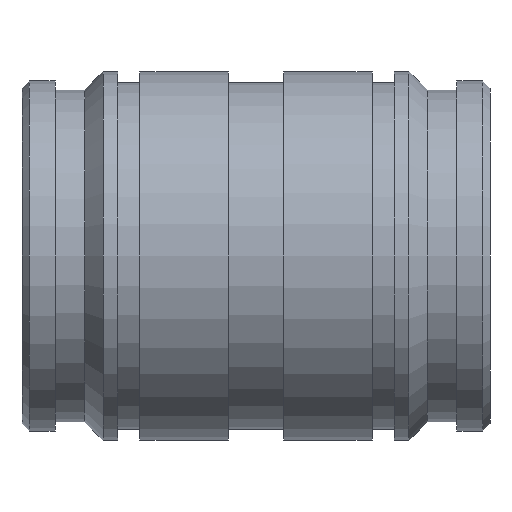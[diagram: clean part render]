
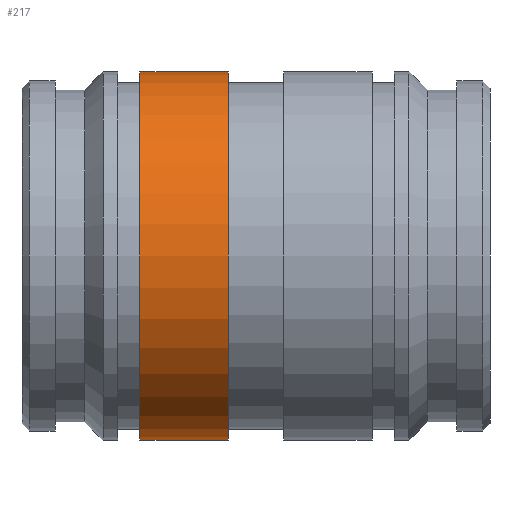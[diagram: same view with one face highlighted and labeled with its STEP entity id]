
A CAD part, front view. The second image highlights one B-rep face of the part: STEP entity #217.
In plain terms, the highlighted cylindrical face has radius 5 mm (diameter 10 mm), a partial arc.
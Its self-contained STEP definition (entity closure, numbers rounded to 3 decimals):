
#22 = FACE_OUTER_BOUND ( 'NONE', #160, .T. ) ;
#27 = DIRECTION ( 'NONE',  ( 0., 0., 1. ) ) ;
#36 = CYLINDRICAL_SURFACE ( 'NONE', #983, 5. ) ;
#80 = DIRECTION ( 'NONE',  ( -1., 0., 0. ) ) ;
#89 = CIRCLE ( 'NONE', #313, 5. ) ;
#100 = LINE ( 'NONE', #294, #1251 ) ;
#160 = EDGE_LOOP ( 'NONE', ( #1174, #1249, #1052, #961 ) ) ;
#175 = VERTEX_POINT ( 'NONE', #1283 ) ;
#217 = ADVANCED_FACE ( 'NONE', ( #22 ), #36, .T. ) ;
#238 = VERTEX_POINT ( 'NONE', #414 ) ;
#281 = LINE ( 'NONE', #366, #624 ) ;
#287 = EDGE_CURVE ( 'NONE', #1083, #1100, #89, .T. ) ;
#294 = CARTESIAN_POINT ( 'NONE',  ( 0.998, 0., -5. ) ) ;
#312 = DIRECTION ( 'NONE',  ( 1., 0., 0. ) ) ;
#313 = AXIS2_PLACEMENT_3D ( 'NONE', #330, #732, #1009 ) ;
#330 = CARTESIAN_POINT ( 'NONE',  ( -3.15, 0., 0. ) ) ;
#366 = CARTESIAN_POINT ( 'NONE',  ( 0.998, 0., 5. ) ) ;
#414 = CARTESIAN_POINT ( 'NONE',  ( -0.75, 0., -5. ) ) ;
#470 = EDGE_CURVE ( 'NONE', #1083, #238, #100, .T. ) ;
#584 = AXIS2_PLACEMENT_3D ( 'NONE', #1183, #80, #964 ) ;
#624 = VECTOR ( 'NONE', #780, 1000. ) ;
#644 = CARTESIAN_POINT ( 'NONE',  ( -3.15, 0., 5. ) ) ;
#732 = DIRECTION ( 'NONE',  ( -1., 0., 0. ) ) ;
#744 = CARTESIAN_POINT ( 'NONE',  ( -3.15, 0., -5. ) ) ;
#758 = EDGE_CURVE ( 'NONE', #1100, #175, #281, .T. ) ;
#775 = EDGE_CURVE ( 'NONE', #238, #175, #1149, .T. ) ;
#780 = DIRECTION ( 'NONE',  ( 1., 0., 0. ) ) ;
#871 = DIRECTION ( 'NONE',  ( 1., 0., 0. ) ) ;
#961 = ORIENTED_EDGE ( 'NONE', *, *, #758, .F. ) ;
#964 = DIRECTION ( 'NONE',  ( 0., 0., 1. ) ) ;
#983 = AXIS2_PLACEMENT_3D ( 'NONE', #1023, #312, #27 ) ;
#1009 = DIRECTION ( 'NONE',  ( 0., 0., 1. ) ) ;
#1023 = CARTESIAN_POINT ( 'NONE',  ( 0.998, 0., 0. ) ) ;
#1052 = ORIENTED_EDGE ( 'NONE', *, *, #775, .T. ) ;
#1083 = VERTEX_POINT ( 'NONE', #744 ) ;
#1100 = VERTEX_POINT ( 'NONE', #644 ) ;
#1149 = CIRCLE ( 'NONE', #584, 5. ) ;
#1174 = ORIENTED_EDGE ( 'NONE', *, *, #287, .F. ) ;
#1183 = CARTESIAN_POINT ( 'NONE',  ( -0.75, 0., 0. ) ) ;
#1249 = ORIENTED_EDGE ( 'NONE', *, *, #470, .T. ) ;
#1251 = VECTOR ( 'NONE', #871, 1000. ) ;
#1283 = CARTESIAN_POINT ( 'NONE',  ( -0.75, 0., 5. ) ) ;
